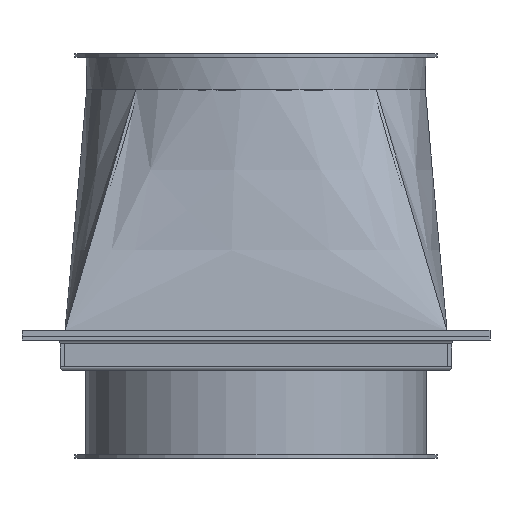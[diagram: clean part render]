
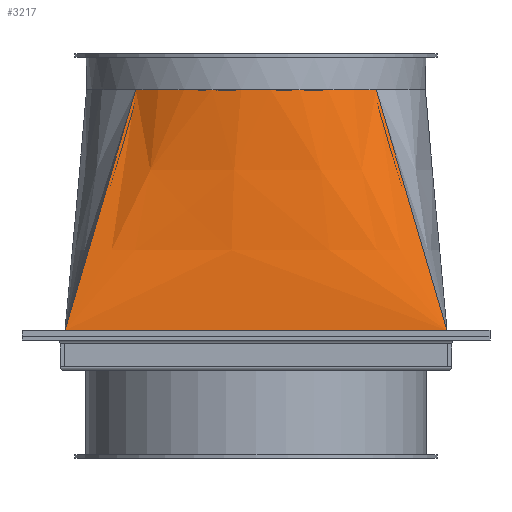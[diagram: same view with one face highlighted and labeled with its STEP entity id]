
A CAD part, left-side view. The second image highlights one B-rep face of the part: STEP entity #3217.
In plain terms, the highlighted free-form (B-spline) face has degree [3, 3] with [8, 4] control points.
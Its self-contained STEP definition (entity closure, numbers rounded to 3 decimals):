
#2472=CARTESIAN_POINT('',(0.0,0.0,0.0));
#2473=VERTEX_POINT('',#2472);
#2482=CARTESIAN_POINT('',(0.,200.0,0.0));
#2483=VERTEX_POINT('',#2482);
#2484=CARTESIAN_POINT('',(0.,200.0,0.0));
#2485=DIRECTION('',(0.0,-1.0,0.0));
#2486=VECTOR('',#2485,200.0);
#2487=LINE('',#2484,#2486);
#2488=EDGE_CURVE('',#2483,#2473,#2487,.T.);
#3145=CARTESIAN_POINT('',(-37.067,37.067,-126.0));
#3146=VERTEX_POINT('',#3145);
#3154=CARTESIAN_POINT('',(0.0,0.0,0.0));
#3155=CARTESIAN_POINT('',(-12.356,12.356,-42.));
#3156=CARTESIAN_POINT('',(-24.712,24.712,-84.0));
#3157=CARTESIAN_POINT('',(-37.067,37.067,-126.0));
#3158=QUASI_UNIFORM_CURVE('',3,(#3154,#3155,#3156,#3157),.UNSPECIFIED.,.F.,.U.);
#3159=EDGE_CURVE('',#2473,#3146,#3158,.T.);
#3164=CARTESIAN_POINT('',(0.0,0.0,0.0));
#3165=CARTESIAN_POINT('',(0.,9.524,0.0));
#3166=CARTESIAN_POINT('',(0.,28.571,0.0));
#3167=CARTESIAN_POINT('',(0.,66.667,0.0));
#3168=CARTESIAN_POINT('',(0.,114.286,0.0));
#3169=CARTESIAN_POINT('',(0.,161.905,0.0));
#3170=CARTESIAN_POINT('',(0.,190.476,0.0));
#3171=CARTESIAN_POINT('',(0.,200.0,0.0));
#3172=CARTESIAN_POINT('',(-12.356,12.356,-42.));
#3173=CARTESIAN_POINT('',(-10.784,20.273,-42.));
#3174=CARTESIAN_POINT('',(-8.006,36.466,-42.));
#3175=CARTESIAN_POINT('',(-4.119,69.907,-42.));
#3176=CARTESIAN_POINT('',(-2.846,112.958,-42.));
#3177=CARTESIAN_POINT('',(-6.602,155.446,-42.));
#3178=CARTESIAN_POINT('',(-10.79,179.724,-42.));
#3179=CARTESIAN_POINT('',(-12.356,187.644,-42.));
#3180=CARTESIAN_POINT('',(-24.712,24.712,-84.0));
#3181=CARTESIAN_POINT('',(-21.576,31.025,-84.));
#3182=CARTESIAN_POINT('',(-16.009,44.359,-84.));
#3183=CARTESIAN_POINT('',(-8.242,73.147,-84.));
#3184=CARTESIAN_POINT('',(-5.685,111.633,-84.));
#3185=CARTESIAN_POINT('',(-13.209,148.983,-84.));
#3186=CARTESIAN_POINT('',(-21.57,168.978,-84.));
#3187=CARTESIAN_POINT('',(-24.712,175.288,-84.0));
#3188=CARTESIAN_POINT('',(-37.067,37.067,-126.0));
#3189=CARTESIAN_POINT('',(-32.36,41.775,-126.0));
#3190=CARTESIAN_POINT('',(-24.016,52.253,-126.));
#3191=CARTESIAN_POINT('',(-12.361,76.387,-126.));
#3192=CARTESIAN_POINT('',(-8.531,110.306,-126.0));
#3193=CARTESIAN_POINT('',(-19.811,142.523,-126.0));
#3194=CARTESIAN_POINT('',(-32.36,158.225,-126.0));
#3195=CARTESIAN_POINT('',(-37.067,162.933,-126.0));
#3196=B_SPLINE_SURFACE_WITH_KNOTS('',3,3,((#3164,#3172,#3180,#3188),(#3165,#3173,#3181,#3189),(#3166,#3174,#3182,#3190),(#3167,#3175,#3183,#3191),(#3168,#3176,#3184,#3192),(#3169,#3177,#3185,#3193),(#3170,#3178,#3186,#3194),(#3171,#3179,#3187,#3195)),.UNSPECIFIED.,.F.,.F.,.U.,(4,1,1,1,1,4),(4,4),(0.0,0.143,0.286,0.571,0.857,1.0),(0.0,1.0),.UNSPECIFIED.);
#3197=ORIENTED_EDGE('',*,*,#2488,.T.);
#3198=ORIENTED_EDGE('',*,*,#3159,.T.);
#3199=CARTESIAN_POINT('',(-37.067,162.933,-126.0));
#3200=VERTEX_POINT('',#3199);
#3201=CARTESIAN_POINT('',(-100.,100.,-126.0));
#3202=DIRECTION('',(0.0,0.0,-1.0));
#3203=DIRECTION('',(1.0,0.0,0.0));
#3204=AXIS2_PLACEMENT_3D('',#3201,#3202,#3203);
#3205=CIRCLE('',#3204,89.0);
#3206=EDGE_CURVE('',#3200,#3146,#3205,.T.);
#3207=ORIENTED_EDGE('',*,*,#3206,.F.);
#3208=CARTESIAN_POINT('',(0.,200.0,0.0));
#3209=CARTESIAN_POINT('',(-12.356,187.644,-42.));
#3210=CARTESIAN_POINT('',(-24.712,175.288,-84.0));
#3211=CARTESIAN_POINT('',(-37.067,162.933,-126.0));
#3212=QUASI_UNIFORM_CURVE('',3,(#3208,#3209,#3210,#3211),.UNSPECIFIED.,.F.,.U.);
#3213=EDGE_CURVE('',#2483,#3200,#3212,.T.);
#3214=ORIENTED_EDGE('',*,*,#3213,.F.);
#3215=EDGE_LOOP('',(#3197,#3198,#3207,#3214));
#3216=FACE_OUTER_BOUND('',#3215,.T.);
#3217=ADVANCED_FACE('',(#3216),#3196,.F.);
